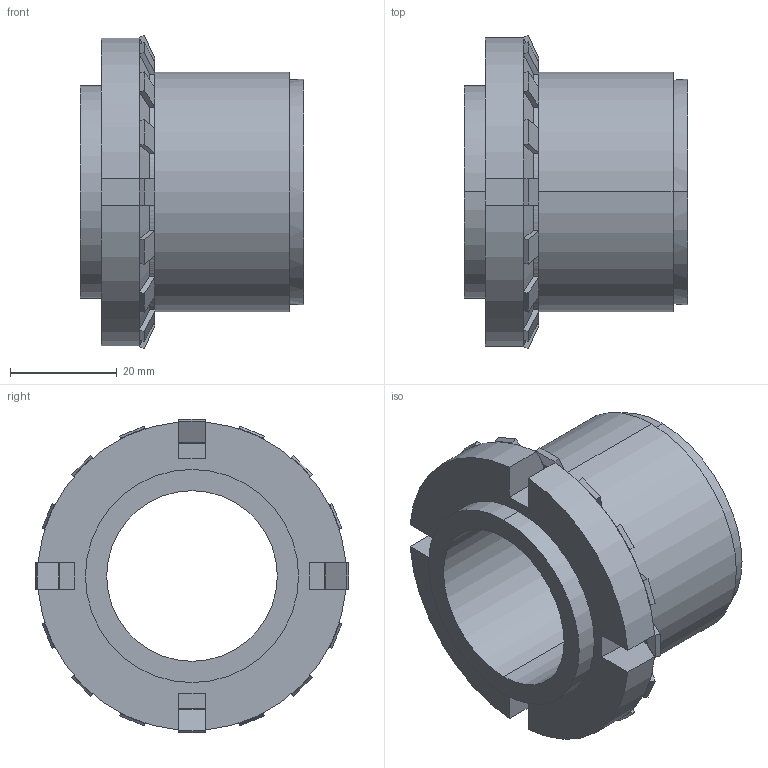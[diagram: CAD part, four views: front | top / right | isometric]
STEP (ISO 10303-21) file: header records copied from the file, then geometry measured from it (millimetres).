
FILE_DESCRIPTION (( 'STEP AP203' ), '1' );
FILE_NAME ('SI-32.STEP', '2009-09-29T17:24:21', ( 'USER' ), ( 'HOME' ), 'SwSTEP 2.0', 'SolidWorks 2007', '' );
FILE_SCHEMA (( 'CONFIG_CONTROL_DESIGN' ));
Length unit declared in the file: millimetre
Products named in the file (1): SI-32
Bounding box: 42 x 58.85 x 58.85 mm (x, y, z)
Volume: 50147.4 mm3; surface area: 51527.7 mm2
Topology: 19 solids, 19 shells, 232 faces, 578 edges, 384 vertices
Faces by surface type: plane 130, cylinder 94, cone 8
Entity records: 7071 total; most frequent: DIRECTION 1232, CARTESIAN_POINT 1219, ORIENTED_EDGE 1156, EDGE_CURVE 578, AXIS2_PLACEMENT_3D 429, VERTEX_POINT 384, LINE 374, VECTOR 374
